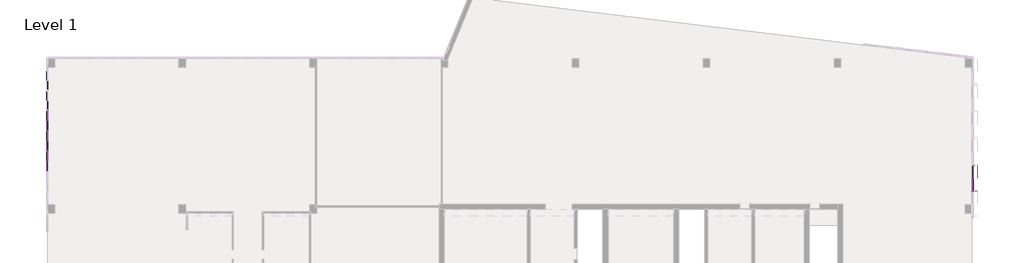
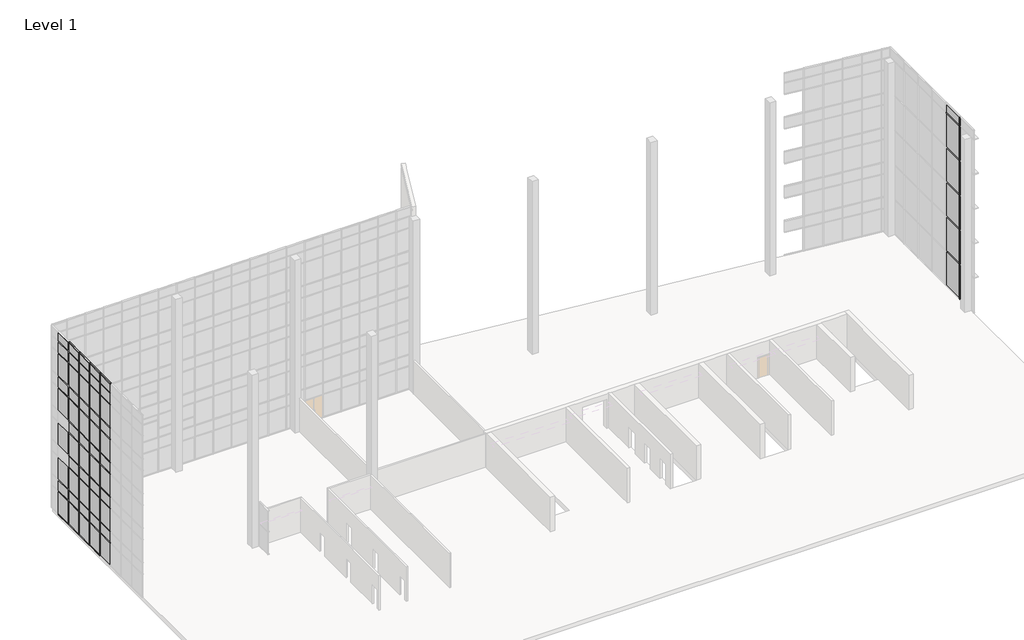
# One storey, part 9 of 23: 71 members, 59 plates.
"""IFC4 building model written with IfcOpenShell, lengths in millimetres."""

from ifc_helpers import new_model, si_unit, origin, place, context, project, spatial, transform, mapped, element, save
from components import member_a26b4311, member_f92b8aa2, member_810865a4, member_6d5c3e5e, member_90793d7c, member_64b167af, member_9764dd38, system_panel_glazed_14c75400, system_panel_glazed_bb983545, system_panel_solid_5dfe6f83, system_panel_solid_e25e2004, system_panel_solid_b7551183, system_panel_solid_a8b18003

model = new_model("IFC4")

# Units and contexts
model_context = context("Model", 3, world=origin())
ifc_project = project(units=[si_unit("LENGTHUNIT", "METRE", prefix="MILLI")], contexts=[model_context])

# Site, building, storey
site = spatial("IfcSite", under=ifc_project)
building = spatial("IfcBuilding", under=site)
storey = spatial("IfcBuildingStorey", under=building, Name="Level 1", Elevation=0.0)

# Members
placement = place(None, origin())
member_shape = member_a26b4311(model_context)
element("IfcMember", 1, ObjectType="Rectangular Mullion : 2.5\" x 18\" rectangular", at=placement, inside=storey, context=model_context, shape_type="MappedRepresentation", body=[
    mapped(member_shape, transform((15106.8054088, -2083.3335112, 18297.0228811), x_axis=(0.0, 0.0, 1.0), y_axis=(-1.0, 0.0, 0.0), z_axis=(0.0, -1.0, 0.0))),
])
member_2_shape = member_f92b8aa2(model_context)
element("IfcMember", 2, ObjectType="Rectangular Mullion : 2.5\" x 5\" rectangular", at=placement, inside=storey, context=model_context, shape_type="MappedRepresentation", body=[
    mapped(member_2_shape, transform((-68724.2599961, 1546.8896508, 18288.0), x_axis=(0.0, 1.0, 0.0), y_axis=(1.0, 0.0, 0.0), z_axis=(0.0, 0.0, -1.0))),
])
element("IfcMember", 3, ObjectType="Rectangular Mullion : 2.5\" x 5\" rectangular", at=placement, inside=storey, context=model_context, shape_type="MappedRepresentation", body=[
    mapped(member_2_shape, transform((-68724.2599961, 3375.6896508, 18288.0), x_axis=(0.0, 1.0, 0.0), y_axis=(1.0, 0.0, 0.0), z_axis=(0.0, 0.0, -1.0))),
])
element("IfcMember", 4, ObjectType="Rectangular Mullion : 2.5\" x 5\" rectangular", at=placement, inside=storey, context=model_context, shape_type="MappedRepresentation", body=[
    mapped(member_2_shape, transform((-68724.2599961, 5204.4896508, 18288.0), x_axis=(0.0, 1.0, 0.0), y_axis=(1.0, 0.0, 0.0), z_axis=(0.0, 0.0, -1.0))),
])
member_3_shape = member_810865a4(model_context)
element("IfcMember", 5, ObjectType="Rectangular Mullion : 2.5\" x 5\" rectangular", at=placement, inside=storey, context=model_context, shape_type="MappedRepresentation", body=[
    mapped(member_3_shape, transform((15106.8054088, -2115.0835112, 3666.6228811), x_axis=(0.0, -1.0, 0.0), y_axis=(-1.0, 0.0, 0.0), z_axis=(0.0, 0.0, -1.0))),
])
element("IfcMember", 6, ObjectType="Rectangular Mullion : 2.5\" x 5\" rectangular", at=placement, inside=storey, context=model_context, shape_type="MappedRepresentation", body=[
    mapped(member_3_shape, transform((15106.8054088, -2115.0835112, 7324.2228811), x_axis=(0.0, -1.0, 0.0), y_axis=(-1.0, 0.0, 0.0), z_axis=(0.0, 0.0, -1.0))),
])
element("IfcMember", 7, ObjectType="Rectangular Mullion : 2.5\" x 5\" rectangular", at=placement, inside=storey, context=model_context, shape_type="MappedRepresentation", body=[
    mapped(member_3_shape, transform((15106.8054088, -2115.0835112, 10981.8228811), x_axis=(0.0, -1.0, 0.0), y_axis=(-1.0, 0.0, 0.0), z_axis=(0.0, 0.0, -1.0))),
])
element("IfcMember", 8, ObjectType="Rectangular Mullion : 2.5\" x 5\" rectangular", at=placement, inside=storey, context=model_context, shape_type="MappedRepresentation", body=[
    mapped(member_3_shape, transform((15106.8054088, -2115.0835112, 14639.4228811), x_axis=(0.0, -1.0, 0.0), y_axis=(-1.0, 0.0, 0.0), z_axis=(0.0, 0.0, -1.0))),
])
element("IfcMember", 9, ObjectType="Rectangular Mullion : 2.5\" x 5\" rectangular", at=placement, inside=storey, context=model_context, shape_type="MappedRepresentation", body=[
    mapped(member_3_shape, transform((-68724.2599961, 1546.8896508, 3657.6), x_axis=(0.0, 1.0, 0.0), y_axis=(1.0, 0.0, 0.0), z_axis=(0.0, 0.0, -1.0))),
])
element("IfcMember", 10, ObjectType="Rectangular Mullion : 2.5\" x 5\" rectangular", at=placement, inside=storey, context=model_context, shape_type="MappedRepresentation", body=[
    mapped(member_3_shape, transform((-68724.2599961, 3375.6896508, 3657.6), x_axis=(0.0, 1.0, 0.0), y_axis=(1.0, 0.0, 0.0), z_axis=(0.0, 0.0, -1.0))),
])
element("IfcMember", 11, ObjectType="Rectangular Mullion : 2.5\" x 5\" rectangular", at=placement, inside=storey, context=model_context, shape_type="MappedRepresentation", body=[
    mapped(member_3_shape, transform((-68724.2599961, 5204.4896508, 3657.6), x_axis=(0.0, 1.0, 0.0), y_axis=(1.0, 0.0, 0.0), z_axis=(0.0, 0.0, -1.0))),
])
element("IfcMember", 12, ObjectType="Rectangular Mullion : 2.5\" x 5\" rectangular", at=placement, inside=storey, context=model_context, shape_type="MappedRepresentation", body=[
    mapped(member_3_shape, transform((-68724.2599961, 1546.8896508, 7315.2), x_axis=(0.0, 1.0, 0.0), y_axis=(1.0, 0.0, 0.0), z_axis=(0.0, 0.0, -1.0))),
])
element("IfcMember", 13, ObjectType="Rectangular Mullion : 2.5\" x 5\" rectangular", at=placement, inside=storey, context=model_context, shape_type="MappedRepresentation", body=[
    mapped(member_3_shape, transform((-68724.2599961, 3375.6896508, 7315.2), x_axis=(0.0, 1.0, 0.0), y_axis=(1.0, 0.0, 0.0), z_axis=(0.0, 0.0, -1.0))),
])
element("IfcMember", 14, ObjectType="Rectangular Mullion : 2.5\" x 5\" rectangular", at=placement, inside=storey, context=model_context, shape_type="MappedRepresentation", body=[
    mapped(member_3_shape, transform((-68724.2599961, 5204.4896508, 7315.2), x_axis=(0.0, 1.0, 0.0), y_axis=(1.0, 0.0, 0.0), z_axis=(0.0, 0.0, -1.0))),
])
element("IfcMember", 15, ObjectType="Rectangular Mullion : 2.5\" x 5\" rectangular", at=placement, inside=storey, context=model_context, shape_type="MappedRepresentation", body=[
    mapped(member_3_shape, transform((-68724.2599961, 1546.8896508, 10972.8), x_axis=(0.0, 1.0, 0.0), y_axis=(1.0, 0.0, 0.0), z_axis=(0.0, 0.0, -1.0))),
])
element("IfcMember", 16, ObjectType="Rectangular Mullion : 2.5\" x 5\" rectangular", at=placement, inside=storey, context=model_context, shape_type="MappedRepresentation", body=[
    mapped(member_3_shape, transform((-68724.2599961, 3375.6896508, 10972.8), x_axis=(0.0, 1.0, 0.0), y_axis=(1.0, 0.0, 0.0), z_axis=(0.0, 0.0, -1.0))),
])
element("IfcMember", 17, ObjectType="Rectangular Mullion : 2.5\" x 5\" rectangular", at=placement, inside=storey, context=model_context, shape_type="MappedRepresentation", body=[
    mapped(member_3_shape, transform((-68724.2599961, 5204.4896508, 10972.8), x_axis=(0.0, 1.0, 0.0), y_axis=(1.0, 0.0, 0.0), z_axis=(0.0, 0.0, -1.0))),
])
element("IfcMember", 18, ObjectType="Rectangular Mullion : 2.5\" x 5\" rectangular", at=placement, inside=storey, context=model_context, shape_type="MappedRepresentation", body=[
    mapped(member_3_shape, transform((-68724.2599961, 1546.8896508, 14630.4), x_axis=(0.0, 1.0, 0.0), y_axis=(1.0, 0.0, 0.0), z_axis=(0.0, 0.0, -1.0))),
])
element("IfcMember", 19, ObjectType="Rectangular Mullion : 2.5\" x 5\" rectangular", at=placement, inside=storey, context=model_context, shape_type="MappedRepresentation", body=[
    mapped(member_3_shape, transform((-68724.2599961, 3375.6896508, 14630.4), x_axis=(0.0, 1.0, 0.0), y_axis=(1.0, 0.0, 0.0), z_axis=(0.0, 0.0, -1.0))),
])
element("IfcMember", 20, ObjectType="Rectangular Mullion : 2.5\" x 5\" rectangular", at=placement, inside=storey, context=model_context, shape_type="MappedRepresentation", body=[
    mapped(member_3_shape, transform((-68724.2599961, 5204.4896508, 14630.4), x_axis=(0.0, 1.0, 0.0), y_axis=(1.0, 0.0, 0.0), z_axis=(0.0, 0.0, -1.0))),
])
member_4_shape = member_6d5c3e5e(model_context)
element("IfcMember", 21, ObjectType="Rectangular Mullion : 2.5\" x 5\" rectangular", at=placement, inside=storey, context=model_context, shape_type="MappedRepresentation", body=[
    mapped(member_4_shape, transform((-68724.2599961, 1515.1396508, 19304.0), x_axis=(0.0, 0.0, 1.0), y_axis=(1.0, 0.0, 0.0), z_axis=(0.0, 1.0, 0.0))),
])
element("IfcMember", 22, ObjectType="Rectangular Mullion : 2.5\" x 5\" rectangular", at=placement, inside=storey, context=model_context, shape_type="MappedRepresentation", body=[
    mapped(member_4_shape, transform((-68724.2599961, 3343.9396508, 19304.0), x_axis=(0.0, 0.0, 1.0), y_axis=(1.0, 0.0, 0.0), z_axis=(0.0, 1.0, 0.0))),
])
element("IfcMember", 23, ObjectType="Rectangular Mullion : 2.5\" x 5\" rectangular", at=placement, inside=storey, context=model_context, shape_type="MappedRepresentation", body=[
    mapped(member_4_shape, transform((-68724.2599961, 5172.7396508, 19304.0), x_axis=(0.0, 0.0, 1.0), y_axis=(1.0, 0.0, 0.0), z_axis=(0.0, 1.0, 0.0))),
])
element("IfcMember", 24, ObjectType="Rectangular Mullion : 2.5\" x 5\" rectangular", at=placement, inside=storey, context=model_context, shape_type="MappedRepresentation", body=[
    mapped(member_4_shape, transform((-68724.2599961, 7001.5396508, 19304.0), x_axis=(0.0, 0.0, 1.0), y_axis=(1.0, 0.0, 0.0), z_axis=(0.0, 1.0, 0.0))),
])
member_5_shape = member_90793d7c(model_context)
element("IfcMember", 25, ObjectType="Rectangular Mullion : 2.5\" x 5\" rectangular", at=placement, inside=storey, context=model_context, shape_type="MappedRepresentation", body=[
    mapped(member_5_shape, transform((15106.8054088, -2115.0835112, 0.0), x_axis=(0.0, -1.0, 0.0), y_axis=(-1.0, 0.0, 0.0), z_axis=(0.0, 0.0, -1.0))),
])
member_6_shape = member_64b167af(model_context)
element("IfcMember", 26, ObjectType="Rectangular Mullion : 2.5\" x 5\" rectangular", at=placement, inside=storey, context=model_context, shape_type="MappedRepresentation", body=[
    mapped(member_6_shape, transform((15106.8054088, -2115.0835112, 18297.0228811), x_axis=(0.0, -1.0, 0.0), y_axis=(-1.0, 0.0, 0.0), z_axis=(0.0, 0.0, -1.0))),
])
member_7_shape = member_9764dd38(model_context)
element("IfcMember", 27, ObjectType="Rectangular Mullion : 2.5\" x 5\" rectangular", at=placement, inside=storey, context=model_context, shape_type="MappedRepresentation", body=[
    mapped(member_7_shape, transform((-68724.2599961, 7001.5396508, 17068.8), x_axis=(0.0, 0.0, 1.0), y_axis=(1.0, 0.0, 0.0), z_axis=(0.0, 1.0, 0.0))),
])
element("IfcMember", 28, ObjectType="Rectangular Mullion : 2.5\" x 5\" rectangular", at=placement, inside=storey, context=model_context, shape_type="MappedRepresentation", body=[
    mapped(member_7_shape, transform((-68724.2599961, 5172.7396508, 17068.8), x_axis=(0.0, 0.0, 1.0), y_axis=(1.0, 0.0, 0.0), z_axis=(0.0, 1.0, 0.0))),
])
element("IfcMember", 29, ObjectType="Rectangular Mullion : 2.5\" x 5\" rectangular", at=placement, inside=storey, context=model_context, shape_type="MappedRepresentation", body=[
    mapped(member_7_shape, transform((-68724.2599961, 3343.9396508, 17068.8), x_axis=(0.0, 0.0, 1.0), y_axis=(1.0, 0.0, 0.0), z_axis=(0.0, 1.0, 0.0))),
])
element("IfcMember", 30, ObjectType="Rectangular Mullion : 2.5\" x 5\" rectangular", at=placement, inside=storey, context=model_context, shape_type="MappedRepresentation", body=[
    mapped(member_7_shape, transform((-68724.2599961, 1515.1396508, 17068.8), x_axis=(0.0, 0.0, 1.0), y_axis=(1.0, 0.0, 0.0), z_axis=(0.0, 1.0, 0.0))),
])
element("IfcMember", 31, ObjectType="Rectangular Mullion : 2.5\" x 5\" rectangular", at=placement, inside=storey, context=model_context, shape_type="MappedRepresentation", body=[
    mapped(member_7_shape, transform((-68724.2599961, 7001.5396508, 13411.2), x_axis=(0.0, 0.0, 1.0), y_axis=(1.0, 0.0, 0.0), z_axis=(0.0, 1.0, 0.0))),
])
element("IfcMember", 32, ObjectType="Rectangular Mullion : 2.5\" x 5\" rectangular", at=placement, inside=storey, context=model_context, shape_type="MappedRepresentation", body=[
    mapped(member_7_shape, transform((-68724.2599961, 5172.7396508, 13411.2), x_axis=(0.0, 0.0, 1.0), y_axis=(1.0, 0.0, 0.0), z_axis=(0.0, 1.0, 0.0))),
])
element("IfcMember", 33, ObjectType="Rectangular Mullion : 2.5\" x 5\" rectangular", at=placement, inside=storey, context=model_context, shape_type="MappedRepresentation", body=[
    mapped(member_7_shape, transform((-68724.2599961, 3343.9396508, 13411.2), x_axis=(0.0, 0.0, 1.0), y_axis=(1.0, 0.0, 0.0), z_axis=(0.0, 1.0, 0.0))),
])
element("IfcMember", 34, ObjectType="Rectangular Mullion : 2.5\" x 5\" rectangular", at=placement, inside=storey, context=model_context, shape_type="MappedRepresentation", body=[
    mapped(member_7_shape, transform((-68724.2599961, 1515.1396508, 13411.2), x_axis=(0.0, 0.0, 1.0), y_axis=(1.0, 0.0, 0.0), z_axis=(0.0, 1.0, 0.0))),
])
element("IfcMember", 35, ObjectType="Rectangular Mullion : 2.5\" x 5\" rectangular", at=placement, inside=storey, context=model_context, shape_type="MappedRepresentation", body=[
    mapped(member_7_shape, transform((-68724.2599961, 7001.5396508, 9753.6), x_axis=(0.0, 0.0, 1.0), y_axis=(1.0, 0.0, 0.0), z_axis=(0.0, 1.0, 0.0))),
])
element("IfcMember", 36, ObjectType="Rectangular Mullion : 2.5\" x 5\" rectangular", at=placement, inside=storey, context=model_context, shape_type="MappedRepresentation", body=[
    mapped(member_7_shape, transform((-68724.2599961, 5172.7396508, 9753.6), x_axis=(0.0, 0.0, 1.0), y_axis=(1.0, 0.0, 0.0), z_axis=(0.0, 1.0, 0.0))),
])
element("IfcMember", 37, ObjectType="Rectangular Mullion : 2.5\" x 5\" rectangular", at=placement, inside=storey, context=model_context, shape_type="MappedRepresentation", body=[
    mapped(member_7_shape, transform((-68724.2599961, 3343.9396508, 9753.6), x_axis=(0.0, 0.0, 1.0), y_axis=(1.0, 0.0, 0.0), z_axis=(0.0, 1.0, 0.0))),
])
element("IfcMember", 38, ObjectType="Rectangular Mullion : 2.5\" x 5\" rectangular", at=placement, inside=storey, context=model_context, shape_type="MappedRepresentation", body=[
    mapped(member_7_shape, transform((-68724.2599961, 1515.1396508, 9753.6), x_axis=(0.0, 0.0, 1.0), y_axis=(1.0, 0.0, 0.0), z_axis=(0.0, 1.0, 0.0))),
])
element("IfcMember", 39, ObjectType="Rectangular Mullion : 2.5\" x 5\" rectangular", at=placement, inside=storey, context=model_context, shape_type="MappedRepresentation", body=[
    mapped(member_7_shape, transform((-68724.2599961, 7001.5396508, 6096.0), x_axis=(0.0, 0.0, 1.0), y_axis=(1.0, 0.0, 0.0), z_axis=(0.0, 1.0, 0.0))),
])
element("IfcMember", 40, ObjectType="Rectangular Mullion : 2.5\" x 5\" rectangular", at=placement, inside=storey, context=model_context, shape_type="MappedRepresentation", body=[
    mapped(member_7_shape, transform((-68724.2599961, 5172.7396508, 6096.0), x_axis=(0.0, 0.0, 1.0), y_axis=(1.0, 0.0, 0.0), z_axis=(0.0, 1.0, 0.0))),
])
element("IfcMember", 41, ObjectType="Rectangular Mullion : 2.5\" x 5\" rectangular", at=placement, inside=storey, context=model_context, shape_type="MappedRepresentation", body=[
    mapped(member_7_shape, transform((-68724.2599961, 3343.9396508, 6096.0), x_axis=(0.0, 0.0, 1.0), y_axis=(1.0, 0.0, 0.0), z_axis=(0.0, 1.0, 0.0))),
])
element("IfcMember", 42, ObjectType="Rectangular Mullion : 2.5\" x 5\" rectangular", at=placement, inside=storey, context=model_context, shape_type="MappedRepresentation", body=[
    mapped(member_7_shape, transform((-68724.2599961, 1515.1396508, 6096.0), x_axis=(0.0, 0.0, 1.0), y_axis=(1.0, 0.0, 0.0), z_axis=(0.0, 1.0, 0.0))),
])
element("IfcMember", 43, ObjectType="Rectangular Mullion : 2.5\" x 5\" rectangular", at=placement, inside=storey, context=model_context, shape_type="MappedRepresentation", body=[
    mapped(member_7_shape, transform((-68724.2599961, 7001.5396508, 2470.15), x_axis=(0.0, 0.0, 1.0), y_axis=(1.0, 0.0, 0.0), z_axis=(0.0, 1.0, 0.0))),
])
element("IfcMember", 44, ObjectType="Rectangular Mullion : 2.5\" x 5\" rectangular", at=placement, inside=storey, context=model_context, shape_type="MappedRepresentation", body=[
    mapped(member_7_shape, transform((-68724.2599961, 5172.7396508, 2470.15), x_axis=(0.0, 0.0, 1.0), y_axis=(1.0, 0.0, 0.0), z_axis=(0.0, 1.0, 0.0))),
])
element("IfcMember", 45, ObjectType="Rectangular Mullion : 2.5\" x 5\" rectangular", at=placement, inside=storey, context=model_context, shape_type="MappedRepresentation", body=[
    mapped(member_7_shape, transform((-68724.2599961, 3343.9396508, 2470.15), x_axis=(0.0, 0.0, 1.0), y_axis=(1.0, 0.0, 0.0), z_axis=(0.0, 1.0, 0.0))),
])
element("IfcMember", 46, ObjectType="Rectangular Mullion : 2.5\" x 5\" rectangular", at=placement, inside=storey, context=model_context, shape_type="MappedRepresentation", body=[
    mapped(member_7_shape, transform((-68724.2599961, 1515.1396508, 2470.15), x_axis=(0.0, 0.0, 1.0), y_axis=(1.0, 0.0, 0.0), z_axis=(0.0, 1.0, 0.0))),
])
element("IfcMember", 47, ObjectType="Rectangular Mullion : 2.5\" x 5\" rectangular", at=placement, inside=storey, context=model_context, shape_type="MappedRepresentation", body=[
    mapped(member_3_shape, transform((-68724.2599961, 1546.8896508, 0.0), x_axis=(0.0, 1.0, 0.0), y_axis=(1.0, 0.0, 0.0), z_axis=(0.0, 0.0, -1.0))),
])
element("IfcMember", 48, ObjectType="Rectangular Mullion : 2.5\" x 5\" rectangular", at=placement, inside=storey, context=model_context, shape_type="MappedRepresentation", body=[
    mapped(member_3_shape, transform((-68724.2599961, 3375.6896508, 0.0), x_axis=(0.0, 1.0, 0.0), y_axis=(1.0, 0.0, 0.0), z_axis=(0.0, 0.0, -1.0))),
])
element("IfcMember", 49, ObjectType="Rectangular Mullion : 2.5\" x 5\" rectangular", at=placement, inside=storey, context=model_context, shape_type="MappedRepresentation", body=[
    mapped(member_3_shape, transform((-68724.2599961, 5204.4896508, 0.0), x_axis=(0.0, 1.0, 0.0), y_axis=(1.0, 0.0, 0.0), z_axis=(0.0, 0.0, -1.0))),
])
element("IfcMember", 50, ObjectType="Rectangular Mullion : 2.5\" x 5\" rectangular", at=placement, inside=storey, context=model_context, shape_type="MappedRepresentation", body=[
    mapped(member_4_shape, transform((-68724.2599961, 1578.6396508, 0.0), x_axis=(0.0, 0.0, -1.0), y_axis=(1.0, 0.0, 0.0), z_axis=(0.0, -1.0, 0.0))),
])
element("IfcMember", 51, ObjectType="Rectangular Mullion : 2.5\" x 5\" rectangular", at=placement, inside=storey, context=model_context, shape_type="MappedRepresentation", body=[
    mapped(member_4_shape, transform((-68724.2599961, 3407.4396508, 0.0), x_axis=(0.0, 0.0, -1.0), y_axis=(1.0, 0.0, 0.0), z_axis=(0.0, -1.0, 0.0))),
])
element("IfcMember", 52, ObjectType="Rectangular Mullion : 2.5\" x 5\" rectangular", at=placement, inside=storey, context=model_context, shape_type="MappedRepresentation", body=[
    mapped(member_4_shape, transform((-68724.2599961, 5236.2396508, 0.0), x_axis=(0.0, 0.0, -1.0), y_axis=(1.0, 0.0, 0.0), z_axis=(0.0, -1.0, 0.0))),
])
element("IfcMember", 53, ObjectType="Rectangular Mullion : 2.5\" x 5\" rectangular", at=placement, inside=storey, context=model_context, shape_type="MappedRepresentation", body=[
    mapped(member_4_shape, transform((-68724.2599961, 7065.0396508, 0.0), x_axis=(0.0, 0.0, -1.0), y_axis=(1.0, 0.0, 0.0), z_axis=(0.0, -1.0, 0.0))),
])
element("IfcMember", 54, ObjectType="Rectangular Mullion : 2.5\" x 5\" rectangular", at=placement, inside=storey, context=model_context, shape_type="MappedRepresentation", body=[
    mapped(member_7_shape, transform((-68724.2599961, 1515.1396508, 3657.6), x_axis=(0.0, 0.0, 1.0), y_axis=(1.0, 0.0, 0.0), z_axis=(0.0, 1.0, 0.0))),
])
element("IfcMember", 55, ObjectType="Rectangular Mullion : 2.5\" x 5\" rectangular", at=placement, inside=storey, context=model_context, shape_type="MappedRepresentation", body=[
    mapped(member_7_shape, transform((-68724.2599961, 3343.9396508, 3657.6), x_axis=(0.0, 0.0, 1.0), y_axis=(1.0, 0.0, 0.0), z_axis=(0.0, 1.0, 0.0))),
])
element("IfcMember", 56, ObjectType="Rectangular Mullion : 2.5\" x 5\" rectangular", at=placement, inside=storey, context=model_context, shape_type="MappedRepresentation", body=[
    mapped(member_7_shape, transform((-68724.2599961, 5172.7396508, 3657.6), x_axis=(0.0, 0.0, 1.0), y_axis=(1.0, 0.0, 0.0), z_axis=(0.0, 1.0, 0.0))),
])
element("IfcMember", 57, ObjectType="Rectangular Mullion : 2.5\" x 5\" rectangular", at=placement, inside=storey, context=model_context, shape_type="MappedRepresentation", body=[
    mapped(member_7_shape, transform((-68724.2599961, 7001.5396508, 3657.6), x_axis=(0.0, 0.0, 1.0), y_axis=(1.0, 0.0, 0.0), z_axis=(0.0, 1.0, 0.0))),
])
element("IfcMember", 58, ObjectType="Rectangular Mullion : 2.5\" x 5\" rectangular", at=placement, inside=storey, context=model_context, shape_type="MappedRepresentation", body=[
    mapped(member_7_shape, transform((-68724.2599961, 1515.1396508, 7315.2), x_axis=(0.0, 0.0, 1.0), y_axis=(1.0, 0.0, 0.0), z_axis=(0.0, 1.0, 0.0))),
])
element("IfcMember", 59, ObjectType="Rectangular Mullion : 2.5\" x 5\" rectangular", at=placement, inside=storey, context=model_context, shape_type="MappedRepresentation", body=[
    mapped(member_7_shape, transform((-68724.2599961, 3343.9396508, 7315.2), x_axis=(0.0, 0.0, 1.0), y_axis=(1.0, 0.0, 0.0), z_axis=(0.0, 1.0, 0.0))),
])
element("IfcMember", 60, ObjectType="Rectangular Mullion : 2.5\" x 5\" rectangular", at=placement, inside=storey, context=model_context, shape_type="MappedRepresentation", body=[
    mapped(member_7_shape, transform((-68724.2599961, 5172.7396508, 7315.2), x_axis=(0.0, 0.0, 1.0), y_axis=(1.0, 0.0, 0.0), z_axis=(0.0, 1.0, 0.0))),
])
element("IfcMember", 61, ObjectType="Rectangular Mullion : 2.5\" x 5\" rectangular", at=placement, inside=storey, context=model_context, shape_type="MappedRepresentation", body=[
    mapped(member_7_shape, transform((-68724.2599961, 7001.5396508, 7315.2), x_axis=(0.0, 0.0, 1.0), y_axis=(1.0, 0.0, 0.0), z_axis=(0.0, 1.0, 0.0))),
])
element("IfcMember", 62, ObjectType="Rectangular Mullion : 2.5\" x 5\" rectangular", at=placement, inside=storey, context=model_context, shape_type="MappedRepresentation", body=[
    mapped(member_7_shape, transform((-68724.2599961, 1515.1396508, 10972.8), x_axis=(0.0, 0.0, 1.0), y_axis=(1.0, 0.0, 0.0), z_axis=(0.0, 1.0, 0.0))),
])
element("IfcMember", 63, ObjectType="Rectangular Mullion : 2.5\" x 5\" rectangular", at=placement, inside=storey, context=model_context, shape_type="MappedRepresentation", body=[
    mapped(member_7_shape, transform((-68724.2599961, 3343.9396508, 10972.8), x_axis=(0.0, 0.0, 1.0), y_axis=(1.0, 0.0, 0.0), z_axis=(0.0, 1.0, 0.0))),
])
element("IfcMember", 64, ObjectType="Rectangular Mullion : 2.5\" x 5\" rectangular", at=placement, inside=storey, context=model_context, shape_type="MappedRepresentation", body=[
    mapped(member_7_shape, transform((-68724.2599961, 5172.7396508, 10972.8), x_axis=(0.0, 0.0, 1.0), y_axis=(1.0, 0.0, 0.0), z_axis=(0.0, 1.0, 0.0))),
])
element("IfcMember", 65, ObjectType="Rectangular Mullion : 2.5\" x 5\" rectangular", at=placement, inside=storey, context=model_context, shape_type="MappedRepresentation", body=[
    mapped(member_7_shape, transform((-68724.2599961, 7001.5396508, 10972.8), x_axis=(0.0, 0.0, 1.0), y_axis=(1.0, 0.0, 0.0), z_axis=(0.0, 1.0, 0.0))),
])
element("IfcMember", 66, ObjectType="Rectangular Mullion : 2.5\" x 5\" rectangular", at=placement, inside=storey, context=model_context, shape_type="MappedRepresentation", body=[
    mapped(member_7_shape, transform((-68724.2599961, 1515.1396508, 14630.4), x_axis=(0.0, 0.0, 1.0), y_axis=(1.0, 0.0, 0.0), z_axis=(0.0, 1.0, 0.0))),
])
element("IfcMember", 67, ObjectType="Rectangular Mullion : 2.5\" x 5\" rectangular", at=placement, inside=storey, context=model_context, shape_type="MappedRepresentation", body=[
    mapped(member_7_shape, transform((-68724.2599961, 3343.9396508, 14630.4), x_axis=(0.0, 0.0, 1.0), y_axis=(1.0, 0.0, 0.0), z_axis=(0.0, 1.0, 0.0))),
])
element("IfcMember", 68, ObjectType="Rectangular Mullion : 2.5\" x 5\" rectangular", at=placement, inside=storey, context=model_context, shape_type="MappedRepresentation", body=[
    mapped(member_7_shape, transform((-68724.2599961, 5172.7396508, 14630.4), x_axis=(0.0, 0.0, 1.0), y_axis=(1.0, 0.0, 0.0), z_axis=(0.0, 1.0, 0.0))),
])
element("IfcMember", 69, ObjectType="Rectangular Mullion : 2.5\" x 5\" rectangular", at=placement, inside=storey, context=model_context, shape_type="MappedRepresentation", body=[
    mapped(member_7_shape, transform((-68724.2599961, 1515.1396508, 18288.0), x_axis=(0.0, 0.0, 1.0), y_axis=(1.0, 0.0, 0.0), z_axis=(0.0, 1.0, 0.0))),
])
element("IfcMember", 70, ObjectType="Rectangular Mullion : 2.5\" x 5\" rectangular", at=placement, inside=storey, context=model_context, shape_type="MappedRepresentation", body=[
    mapped(member_7_shape, transform((-68724.2599961, 3343.9396508, 18288.0), x_axis=(0.0, 0.0, 1.0), y_axis=(1.0, 0.0, 0.0), z_axis=(0.0, 1.0, 0.0))),
])
element("IfcMember", 71, ObjectType="Rectangular Mullion : 2.5\" x 5\" rectangular", at=placement, inside=storey, context=model_context, shape_type="MappedRepresentation", body=[
    mapped(member_7_shape, transform((-68724.2599961, 5172.7396508, 18288.0), x_axis=(0.0, 0.0, 1.0), y_axis=(1.0, 0.0, 0.0), z_axis=(0.0, 1.0, 0.0))),
])

# Plates
system_panel_glazed_shape = system_panel_glazed_14c75400(model_context)
element("IfcPlate", 72, ObjectType="System Panel : Glazed", at=placement, inside=storey, context=model_context, shape_type="MappedRepresentation", body=[
    mapped(system_panel_glazed_shape, transform((-68724.2599961, 7947.6896508, 14662.15), x_axis=(0.0, 1.0, 0.0), y_axis=(-1.0, 0.0, 0.0), z_axis=(0.0, 0.0, 1.0))),
])
element("IfcPlate", 73, ObjectType="System Panel : Glazed", at=placement, inside=storey, context=model_context, shape_type="MappedRepresentation", body=[
    mapped(system_panel_glazed_shape, transform((-68724.2599961, 6118.8896508, 14662.15), x_axis=(0.0, 1.0, 0.0), y_axis=(-1.0, 0.0, 0.0), z_axis=(0.0, 0.0, 1.0))),
])
element("IfcPlate", 74, ObjectType="System Panel : Glazed", at=placement, inside=storey, context=model_context, shape_type="MappedRepresentation", body=[
    mapped(system_panel_glazed_shape, transform((-68724.2599961, 4290.0896508, 14662.15), x_axis=(0.0, 1.0, 0.0), y_axis=(-1.0, 0.0, 0.0), z_axis=(0.0, 0.0, 1.0))),
])
element("IfcPlate", 75, ObjectType="System Panel : Glazed", at=placement, inside=storey, context=model_context, shape_type="MappedRepresentation", body=[
    mapped(system_panel_glazed_shape, transform((-68724.2599961, 2461.2896508, 14662.15), x_axis=(0.0, 1.0, 0.0), y_axis=(-1.0, 0.0, 0.0), z_axis=(0.0, 0.0, 1.0))),
])
element("IfcPlate", 76, ObjectType="System Panel : Glazed", at=placement, inside=storey, context=model_context, shape_type="MappedRepresentation", body=[
    mapped(system_panel_glazed_shape, transform((-68724.2599961, 632.4896508, 14662.15), x_axis=(0.0, 1.0, 0.0), y_axis=(-1.0, 0.0, 0.0), z_axis=(0.0, 0.0, 1.0))),
])
element("IfcPlate", 77, ObjectType="System Panel : Glazed", at=placement, inside=storey, context=model_context, shape_type="MappedRepresentation", body=[
    mapped(system_panel_glazed_shape, transform((-68724.2599961, 7947.6896508, 11004.55), x_axis=(0.0, 1.0, 0.0), y_axis=(-1.0, 0.0, 0.0), z_axis=(0.0, 0.0, 1.0))),
])
element("IfcPlate", 78, ObjectType="System Panel : Glazed", at=placement, inside=storey, context=model_context, shape_type="MappedRepresentation", body=[
    mapped(system_panel_glazed_shape, transform((-68724.2599961, 6118.8896508, 11004.55), x_axis=(0.0, 1.0, 0.0), y_axis=(-1.0, 0.0, 0.0), z_axis=(0.0, 0.0, 1.0))),
])
element("IfcPlate", 79, ObjectType="System Panel : Glazed", at=placement, inside=storey, context=model_context, shape_type="MappedRepresentation", body=[
    mapped(system_panel_glazed_shape, transform((-68724.2599961, 4290.0896508, 11004.55), x_axis=(0.0, 1.0, 0.0), y_axis=(-1.0, 0.0, 0.0), z_axis=(0.0, 0.0, 1.0))),
])
element("IfcPlate", 80, ObjectType="System Panel : Glazed", at=placement, inside=storey, context=model_context, shape_type="MappedRepresentation", body=[
    mapped(system_panel_glazed_shape, transform((-68724.2599961, 2461.2896508, 11004.55), x_axis=(0.0, 1.0, 0.0), y_axis=(-1.0, 0.0, 0.0), z_axis=(0.0, 0.0, 1.0))),
])
element("IfcPlate", 81, ObjectType="System Panel : Glazed", at=placement, inside=storey, context=model_context, shape_type="MappedRepresentation", body=[
    mapped(system_panel_glazed_shape, transform((-68724.2599961, 632.4896508, 11004.55), x_axis=(0.0, 1.0, 0.0), y_axis=(-1.0, 0.0, 0.0), z_axis=(0.0, 0.0, 1.0))),
])
element("IfcPlate", 82, ObjectType="System Panel : Glazed", at=placement, inside=storey, context=model_context, shape_type="MappedRepresentation", body=[
    mapped(system_panel_glazed_shape, transform((-68724.2599961, 7947.6896508, 7346.95), x_axis=(0.0, 1.0, 0.0), y_axis=(-1.0, 0.0, 0.0), z_axis=(0.0, 0.0, 1.0))),
])
element("IfcPlate", 83, ObjectType="System Panel : Glazed", at=placement, inside=storey, context=model_context, shape_type="MappedRepresentation", body=[
    mapped(system_panel_glazed_shape, transform((-68724.2599961, 6118.8896508, 7346.95), x_axis=(0.0, 1.0, 0.0), y_axis=(-1.0, 0.0, 0.0), z_axis=(0.0, 0.0, 1.0))),
])
element("IfcPlate", 84, ObjectType="System Panel : Glazed", at=placement, inside=storey, context=model_context, shape_type="MappedRepresentation", body=[
    mapped(system_panel_glazed_shape, transform((-68724.2599961, 4290.0896508, 7346.95), x_axis=(0.0, 1.0, 0.0), y_axis=(-1.0, 0.0, 0.0), z_axis=(0.0, 0.0, 1.0))),
])
element("IfcPlate", 85, ObjectType="System Panel : Glazed", at=placement, inside=storey, context=model_context, shape_type="MappedRepresentation", body=[
    mapped(system_panel_glazed_shape, transform((-68724.2599961, 2461.2896508, 7346.95), x_axis=(0.0, 1.0, 0.0), y_axis=(-1.0, 0.0, 0.0), z_axis=(0.0, 0.0, 1.0))),
])
element("IfcPlate", 86, ObjectType="System Panel : Glazed", at=placement, inside=storey, context=model_context, shape_type="MappedRepresentation", body=[
    mapped(system_panel_glazed_shape, transform((-68724.2599961, 632.4896508, 7346.95), x_axis=(0.0, 1.0, 0.0), y_axis=(-1.0, 0.0, 0.0), z_axis=(0.0, 0.0, 1.0))),
])
element("IfcPlate", 87, ObjectType="System Panel : Glazed", at=placement, inside=storey, context=model_context, shape_type="MappedRepresentation", body=[
    mapped(system_panel_glazed_shape, transform((-68724.2599961, 7947.6896508, 3689.35), x_axis=(0.0, 1.0, 0.0), y_axis=(-1.0, 0.0, 0.0), z_axis=(0.0, 0.0, 1.0))),
])
element("IfcPlate", 88, ObjectType="System Panel : Glazed", at=placement, inside=storey, context=model_context, shape_type="MappedRepresentation", body=[
    mapped(system_panel_glazed_shape, transform((-68724.2599961, 6118.8896508, 3689.35), x_axis=(0.0, 1.0, 0.0), y_axis=(-1.0, 0.0, 0.0), z_axis=(0.0, 0.0, 1.0))),
])
element("IfcPlate", 89, ObjectType="System Panel : Glazed", at=placement, inside=storey, context=model_context, shape_type="MappedRepresentation", body=[
    mapped(system_panel_glazed_shape, transform((-68724.2599961, 4290.0896508, 3689.35), x_axis=(0.0, 1.0, 0.0), y_axis=(-1.0, 0.0, 0.0), z_axis=(0.0, 0.0, 1.0))),
])
element("IfcPlate", 90, ObjectType="System Panel : Glazed", at=placement, inside=storey, context=model_context, shape_type="MappedRepresentation", body=[
    mapped(system_panel_glazed_shape, transform((-68724.2599961, 2461.2896508, 3689.35), x_axis=(0.0, 1.0, 0.0), y_axis=(-1.0, 0.0, 0.0), z_axis=(0.0, 0.0, 1.0))),
])
element("IfcPlate", 91, ObjectType="System Panel : Glazed", at=placement, inside=storey, context=model_context, shape_type="MappedRepresentation", body=[
    mapped(system_panel_glazed_shape, transform((-68724.2599961, 632.4896508, 3689.35), x_axis=(0.0, 1.0, 0.0), y_axis=(-1.0, 0.0, 0.0), z_axis=(0.0, 0.0, 1.0))),
])
element("IfcPlate", 92, ObjectType="System Panel : Glazed", at=placement, inside=storey, context=model_context, shape_type="MappedRepresentation", body=[
    mapped(system_panel_glazed_shape, transform((-68724.2599961, 7947.6896508, 63.5), x_axis=(0.0, 1.0, 0.0), y_axis=(-1.0, 0.0, 0.0), z_axis=(0.0, 0.0, 1.0))),
])
element("IfcPlate", 93, ObjectType="System Panel : Glazed", at=placement, inside=storey, context=model_context, shape_type="MappedRepresentation", body=[
    mapped(system_panel_glazed_shape, transform((-68724.2599961, 6118.8896508, 63.5), x_axis=(0.0, 1.0, 0.0), y_axis=(-1.0, 0.0, 0.0), z_axis=(0.0, 0.0, 1.0))),
])
element("IfcPlate", 94, ObjectType="System Panel : Glazed", at=placement, inside=storey, context=model_context, shape_type="MappedRepresentation", body=[
    mapped(system_panel_glazed_shape, transform((-68724.2599961, 4290.0896508, 63.5), x_axis=(0.0, 1.0, 0.0), y_axis=(-1.0, 0.0, 0.0), z_axis=(0.0, 0.0, 1.0))),
])
element("IfcPlate", 95, ObjectType="System Panel : Glazed", at=placement, inside=storey, context=model_context, shape_type="MappedRepresentation", body=[
    mapped(system_panel_glazed_shape, transform((-68724.2599961, 2461.2896508, 63.5), x_axis=(0.0, 1.0, 0.0), y_axis=(-1.0, 0.0, 0.0), z_axis=(0.0, 0.0, 1.0))),
])
element("IfcPlate", 96, ObjectType="System Panel : Glazed", at=placement, inside=storey, context=model_context, shape_type="MappedRepresentation", body=[
    mapped(system_panel_glazed_shape, transform((-68724.2599961, 632.4896508, 63.5), x_axis=(0.0, 1.0, 0.0), y_axis=(-1.0, 0.0, 0.0), z_axis=(0.0, 0.0, 1.0))),
])
system_panel_glazed_2_shape = system_panel_glazed_bb983545(model_context)
element("IfcPlate", 97, ObjectType="System Panel : Glazed", at=placement, inside=storey, context=model_context, shape_type="MappedRepresentation", body=[
    mapped(system_panel_glazed_2_shape, transform((15106.8054088, -906.0045774, 40.7728811), x_axis=(0.0, -1.0, 0.0), y_axis=(1.0, 0.0, 0.0), z_axis=(0.0, 0.0, 1.0))),
])
element("IfcPlate", 98, ObjectType="System Panel : Glazed", at=placement, inside=storey, context=model_context, shape_type="MappedRepresentation", body=[
    mapped(system_panel_glazed_2_shape, transform((15106.8054088, -906.0045774, 3698.3728811), x_axis=(0.0, -1.0, 0.0), y_axis=(1.0, 0.0, 0.0), z_axis=(0.0, 0.0, 1.0))),
])
element("IfcPlate", 99, ObjectType="System Panel : Glazed", at=placement, inside=storey, context=model_context, shape_type="MappedRepresentation", body=[
    mapped(system_panel_glazed_2_shape, transform((15106.8054088, -906.0045774, 7355.9728811), x_axis=(0.0, -1.0, 0.0), y_axis=(1.0, 0.0, 0.0), z_axis=(0.0, 0.0, 1.0))),
])
element("IfcPlate", 100, ObjectType="System Panel : Glazed", at=placement, inside=storey, context=model_context, shape_type="MappedRepresentation", body=[
    mapped(system_panel_glazed_2_shape, transform((15106.8054088, -906.0045774, 11013.5728811), x_axis=(0.0, -1.0, 0.0), y_axis=(1.0, 0.0, 0.0), z_axis=(0.0, 0.0, 1.0))),
])
element("IfcPlate", 101, ObjectType="System Panel : Glazed", at=placement, inside=storey, context=model_context, shape_type="MappedRepresentation", body=[
    mapped(system_panel_glazed_2_shape, transform((15106.8054088, -906.0045774, 14671.1728811), x_axis=(0.0, -1.0, 0.0), y_axis=(1.0, 0.0, 0.0), z_axis=(0.0, 0.0, 1.0))),
])
system_panel_solid_shape = system_panel_solid_5dfe6f83(model_context)
element("IfcPlate", 102, ObjectType="System Panel : Solid", at=placement, inside=storey, context=model_context, shape_type="MappedRepresentation", body=[
    mapped(system_panel_solid_shape, transform((-68724.2599961, 632.4896508, 18319.75), x_axis=(0.0, 1.0, 0.0), y_axis=(-1.0, 0.0, 0.0), z_axis=(0.0, 0.0, 1.0))),
])
element("IfcPlate", 103, ObjectType="System Panel : Solid", at=placement, inside=storey, context=model_context, shape_type="MappedRepresentation", body=[
    mapped(system_panel_solid_shape, transform((-68724.2599961, 2461.2896508, 18319.75), x_axis=(0.0, 1.0, 0.0), y_axis=(-1.0, 0.0, 0.0), z_axis=(0.0, 0.0, 1.0))),
])
element("IfcPlate", 104, ObjectType="System Panel : Solid", at=placement, inside=storey, context=model_context, shape_type="MappedRepresentation", body=[
    mapped(system_panel_solid_shape, transform((-68724.2599961, 4290.0896508, 18319.75), x_axis=(0.0, 1.0, 0.0), y_axis=(-1.0, 0.0, 0.0), z_axis=(0.0, 0.0, 1.0))),
])
element("IfcPlate", 105, ObjectType="System Panel : Solid", at=placement, inside=storey, context=model_context, shape_type="MappedRepresentation", body=[
    mapped(system_panel_solid_shape, transform((-68724.2599961, 6118.8896508, 18319.75), x_axis=(0.0, 1.0, 0.0), y_axis=(-1.0, 0.0, 0.0), z_axis=(0.0, 0.0, 1.0))),
])
element("IfcPlate", 106, ObjectType="System Panel : Solid", at=placement, inside=storey, context=model_context, shape_type="MappedRepresentation", body=[
    mapped(system_panel_solid_shape, transform((-68724.2599961, 7947.6896508, 18319.75), x_axis=(0.0, 1.0, 0.0), y_axis=(-1.0, 0.0, 0.0), z_axis=(0.0, 0.0, 1.0))),
])
system_panel_solid_2_shape = system_panel_solid_e25e2004(model_context)
element("IfcPlate", 107, ObjectType="System Panel : Solid", at=placement, inside=storey, context=model_context, shape_type="MappedRepresentation", body=[
    mapped(system_panel_solid_2_shape, transform((-68724.2599961, 7947.6896508, 17100.55), x_axis=(0.0, 1.0, 0.0), y_axis=(-1.0, 0.0, 0.0), z_axis=(0.0, 0.0, 1.0))),
])
element("IfcPlate", 108, ObjectType="System Panel : Solid", at=placement, inside=storey, context=model_context, shape_type="MappedRepresentation", body=[
    mapped(system_panel_solid_2_shape, transform((-68724.2599961, 6118.8896508, 17100.55), x_axis=(0.0, 1.0, 0.0), y_axis=(-1.0, 0.0, 0.0), z_axis=(0.0, 0.0, 1.0))),
])
element("IfcPlate", 109, ObjectType="System Panel : Solid", at=placement, inside=storey, context=model_context, shape_type="MappedRepresentation", body=[
    mapped(system_panel_solid_2_shape, transform((-68724.2599961, 4290.0896508, 17100.55), x_axis=(0.0, 1.0, 0.0), y_axis=(-1.0, 0.0, 0.0), z_axis=(0.0, 0.0, 1.0))),
])
element("IfcPlate", 110, ObjectType="System Panel : Solid", at=placement, inside=storey, context=model_context, shape_type="MappedRepresentation", body=[
    mapped(system_panel_solid_2_shape, transform((-68724.2599961, 2461.2896508, 17100.55), x_axis=(0.0, 1.0, 0.0), y_axis=(-1.0, 0.0, 0.0), z_axis=(0.0, 0.0, 1.0))),
])
element("IfcPlate", 111, ObjectType="System Panel : Solid", at=placement, inside=storey, context=model_context, shape_type="MappedRepresentation", body=[
    mapped(system_panel_solid_2_shape, transform((-68724.2599961, 632.4896508, 17100.55), x_axis=(0.0, 1.0, 0.0), y_axis=(-1.0, 0.0, 0.0), z_axis=(0.0, 0.0, 1.0))),
])
element("IfcPlate", 112, ObjectType="System Panel : Solid", at=placement, inside=storey, context=model_context, shape_type="MappedRepresentation", body=[
    mapped(system_panel_solid_2_shape, transform((-68724.2599961, 7947.6896508, 13442.95), x_axis=(0.0, 1.0, 0.0), y_axis=(-1.0, 0.0, 0.0), z_axis=(0.0, 0.0, 1.0))),
])
element("IfcPlate", 113, ObjectType="System Panel : Solid", at=placement, inside=storey, context=model_context, shape_type="MappedRepresentation", body=[
    mapped(system_panel_solid_2_shape, transform((-68724.2599961, 6118.8896508, 13442.95), x_axis=(0.0, 1.0, 0.0), y_axis=(-1.0, 0.0, 0.0), z_axis=(0.0, 0.0, 1.0))),
])
element("IfcPlate", 114, ObjectType="System Panel : Solid", at=placement, inside=storey, context=model_context, shape_type="MappedRepresentation", body=[
    mapped(system_panel_solid_2_shape, transform((-68724.2599961, 4290.0896508, 13442.95), x_axis=(0.0, 1.0, 0.0), y_axis=(-1.0, 0.0, 0.0), z_axis=(0.0, 0.0, 1.0))),
])
element("IfcPlate", 115, ObjectType="System Panel : Solid", at=placement, inside=storey, context=model_context, shape_type="MappedRepresentation", body=[
    mapped(system_panel_solid_2_shape, transform((-68724.2599961, 2461.2896508, 13442.95), x_axis=(0.0, 1.0, 0.0), y_axis=(-1.0, 0.0, 0.0), z_axis=(0.0, 0.0, 1.0))),
])
element("IfcPlate", 116, ObjectType="System Panel : Solid", at=placement, inside=storey, context=model_context, shape_type="MappedRepresentation", body=[
    mapped(system_panel_solid_2_shape, transform((-68724.2599961, 632.4896508, 13442.95), x_axis=(0.0, 1.0, 0.0), y_axis=(-1.0, 0.0, 0.0), z_axis=(0.0, 0.0, 1.0))),
])
element("IfcPlate", 117, ObjectType="System Panel : Solid", at=placement, inside=storey, context=model_context, shape_type="MappedRepresentation", body=[
    mapped(system_panel_solid_2_shape, transform((-68724.2599961, 6118.8896508, 9785.35), x_axis=(0.0, 1.0, 0.0), y_axis=(-1.0, 0.0, 0.0), z_axis=(0.0, 0.0, 1.0))),
])
element("IfcPlate", 118, ObjectType="System Panel : Solid", at=placement, inside=storey, context=model_context, shape_type="MappedRepresentation", body=[
    mapped(system_panel_solid_2_shape, transform((-68724.2599961, 4290.0896508, 9785.35), x_axis=(0.0, 1.0, 0.0), y_axis=(-1.0, 0.0, 0.0), z_axis=(0.0, 0.0, 1.0))),
])
element("IfcPlate", 119, ObjectType="System Panel : Solid", at=placement, inside=storey, context=model_context, shape_type="MappedRepresentation", body=[
    mapped(system_panel_solid_2_shape, transform((-68724.2599961, 2461.2896508, 9785.35), x_axis=(0.0, 1.0, 0.0), y_axis=(-1.0, 0.0, 0.0), z_axis=(0.0, 0.0, 1.0))),
])
element("IfcPlate", 120, ObjectType="System Panel : Solid", at=placement, inside=storey, context=model_context, shape_type="MappedRepresentation", body=[
    mapped(system_panel_solid_2_shape, transform((-68724.2599961, 632.4896508, 9785.35), x_axis=(0.0, 1.0, 0.0), y_axis=(-1.0, 0.0, 0.0), z_axis=(0.0, 0.0, 1.0))),
])
element("IfcPlate", 121, ObjectType="System Panel : Solid", at=placement, inside=storey, context=model_context, shape_type="MappedRepresentation", body=[
    mapped(system_panel_solid_2_shape, transform((-68724.2599961, 6118.8896508, 6127.75), x_axis=(0.0, 1.0, 0.0), y_axis=(-1.0, 0.0, 0.0), z_axis=(0.0, 0.0, 1.0))),
])
element("IfcPlate", 122, ObjectType="System Panel : Solid", at=placement, inside=storey, context=model_context, shape_type="MappedRepresentation", body=[
    mapped(system_panel_solid_2_shape, transform((-68724.2599961, 4290.0896508, 6127.75), x_axis=(0.0, 1.0, 0.0), y_axis=(-1.0, 0.0, 0.0), z_axis=(0.0, 0.0, 1.0))),
])
element("IfcPlate", 123, ObjectType="System Panel : Solid", at=placement, inside=storey, context=model_context, shape_type="MappedRepresentation", body=[
    mapped(system_panel_solid_2_shape, transform((-68724.2599961, 2461.2896508, 6127.75), x_axis=(0.0, 1.0, 0.0), y_axis=(-1.0, 0.0, 0.0), z_axis=(0.0, 0.0, 1.0))),
])
element("IfcPlate", 124, ObjectType="System Panel : Solid", at=placement, inside=storey, context=model_context, shape_type="MappedRepresentation", body=[
    mapped(system_panel_solid_2_shape, transform((-68724.2599961, 632.4896508, 6127.75), x_axis=(0.0, 1.0, 0.0), y_axis=(-1.0, 0.0, 0.0), z_axis=(0.0, 0.0, 1.0))),
])
system_panel_solid_3_shape = system_panel_solid_b7551183(model_context)
element("IfcPlate", 125, ObjectType="System Panel : Solid", at=placement, inside=storey, context=model_context, shape_type="MappedRepresentation", body=[
    mapped(system_panel_solid_3_shape, transform((-68724.2599961, 7947.6896508, 2501.9), x_axis=(0.0, 1.0, 0.0), y_axis=(-1.0, 0.0, 0.0), z_axis=(0.0, 0.0, 1.0))),
])
element("IfcPlate", 126, ObjectType="System Panel : Solid", at=placement, inside=storey, context=model_context, shape_type="MappedRepresentation", body=[
    mapped(system_panel_solid_3_shape, transform((-68724.2599961, 6118.8896508, 2501.9), x_axis=(0.0, 1.0, 0.0), y_axis=(-1.0, 0.0, 0.0), z_axis=(0.0, 0.0, 1.0))),
])
element("IfcPlate", 127, ObjectType="System Panel : Solid", at=placement, inside=storey, context=model_context, shape_type="MappedRepresentation", body=[
    mapped(system_panel_solid_3_shape, transform((-68724.2599961, 4290.0896508, 2501.9), x_axis=(0.0, 1.0, 0.0), y_axis=(-1.0, 0.0, 0.0), z_axis=(0.0, 0.0, 1.0))),
])
element("IfcPlate", 128, ObjectType="System Panel : Solid", at=placement, inside=storey, context=model_context, shape_type="MappedRepresentation", body=[
    mapped(system_panel_solid_3_shape, transform((-68724.2599961, 2461.2896508, 2501.9), x_axis=(0.0, 1.0, 0.0), y_axis=(-1.0, 0.0, 0.0), z_axis=(0.0, 0.0, 1.0))),
])
element("IfcPlate", 129, ObjectType="System Panel : Solid", at=placement, inside=storey, context=model_context, shape_type="MappedRepresentation", body=[
    mapped(system_panel_solid_3_shape, transform((-68724.2599961, 632.4896508, 2501.9), x_axis=(0.0, 1.0, 0.0), y_axis=(-1.0, 0.0, 0.0), z_axis=(0.0, 0.0, 1.0))),
])
system_panel_solid_4_shape = system_panel_solid_a8b18003(model_context)
element("IfcPlate", 130, ObjectType="System Panel : Solid", at=placement, inside=storey, context=model_context, shape_type="MappedRepresentation", body=[
    mapped(system_panel_solid_4_shape, transform((15106.8054088, -906.0045774, 18328.7728811), x_axis=(0.0, -1.0, 0.0), y_axis=(1.0, 0.0, 0.0), z_axis=(0.0, 0.0, 1.0))),
])

save(model, "model.ifc")
